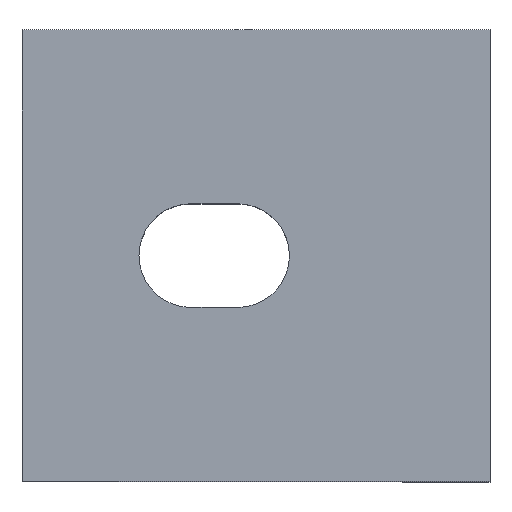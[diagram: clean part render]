
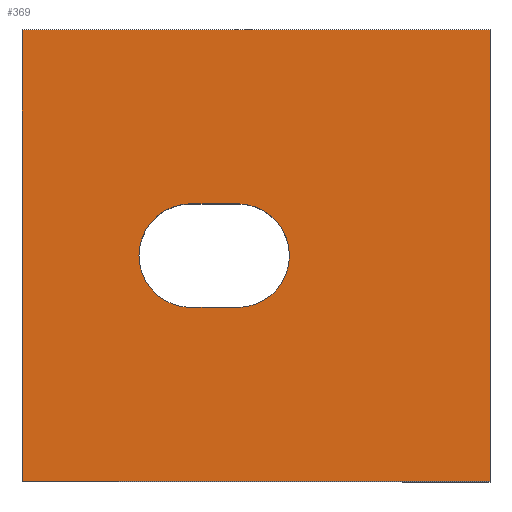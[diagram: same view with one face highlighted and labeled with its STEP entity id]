
A CAD part, top view. The second image highlights one B-rep face of the part: STEP entity #369.
In plain terms, the highlighted planar face has unit normal (0, 0, 1).
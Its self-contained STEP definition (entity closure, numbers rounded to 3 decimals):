
#9=DIRECTION('',(1.,0.,0.));
#10=VECTOR('',#9,28.);
#11=CARTESIAN_POINT('',(-28.,-13.5,0.));
#12=LINE('',#11,#10);
#45=DIRECTION('',(0.,1.,0.));
#46=VECTOR('',#45,27.);
#47=CARTESIAN_POINT('',(0.,-13.5,0.));
#48=LINE('',#47,#46);
#67=DIRECTION('',(0.,1.,0.));
#68=VECTOR('',#67,27.);
#69=CARTESIAN_POINT('',(-28.,-13.5,0.));
#70=LINE('',#69,#68);
#71=CARTESIAN_POINT('',(-15.1,0.,0.));
#72=DIRECTION('',(0.,0.,1.));
#73=DIRECTION('',(0.,-1.,0.));
#74=AXIS2_PLACEMENT_3D('',#71,#72,#73);
#76=DIRECTION('',(-1.,0.,0.));
#77=VECTOR('',#76,2.8);
#78=CARTESIAN_POINT('',(-15.1,3.1,0.));
#79=LINE('',#78,#77);
#80=CARTESIAN_POINT('',(-17.9,0.,0.));
#81=DIRECTION('',(0.,0.,1.));
#82=DIRECTION('',(0.,1.,0.));
#83=AXIS2_PLACEMENT_3D('',#80,#81,#82);
#85=DIRECTION('',(1.,0.,0.));
#86=VECTOR('',#85,2.8);
#87=CARTESIAN_POINT('',(-17.9,-3.1,0.));
#88=LINE('',#87,#86);
#105=DIRECTION('',(1.,0.,0.));
#106=VECTOR('',#105,28.);
#107=CARTESIAN_POINT('',(-28.,13.5,0.));
#108=LINE('',#107,#106);
#201=CARTESIAN_POINT('',(0.,-13.5,0.));
#203=VERTEX_POINT('',#201);
#205=CARTESIAN_POINT('',(-28.,-13.5,0.));
#206=VERTEX_POINT('',#205);
#207=CARTESIAN_POINT('',(0.,13.5,0.));
#209=VERTEX_POINT('',#207);
#211=CARTESIAN_POINT('',(-28.,13.5,0.));
#212=VERTEX_POINT('',#211);
#249=CARTESIAN_POINT('',(-15.1,-3.1,0.));
#250=CARTESIAN_POINT('',(-15.1,3.1,0.));
#251=VERTEX_POINT('',#249);
#252=VERTEX_POINT('',#250);
#253=CARTESIAN_POINT('',(-17.9,3.1,0.));
#254=VERTEX_POINT('',#253);
#255=CARTESIAN_POINT('',(-17.9,-3.1,0.));
#256=VERTEX_POINT('',#255);
#346=CARTESIAN_POINT('',(-28.,-13.5,0.));
#347=DIRECTION('',(0.,0.,1.));
#348=DIRECTION('',(1.,0.,0.));
#349=AXIS2_PLACEMENT_3D('',#346,#347,#348);
#350=PLANE('',#349);
#351=ORIENTED_EDGE('',*,*,#274,.F.);
#353=ORIENTED_EDGE('',*,*,#352,.T.);
#355=ORIENTED_EDGE('',*,*,#354,.T.);
#356=ORIENTED_EDGE('',*,*,#328,.F.);
#357=EDGE_LOOP('',(#351,#353,#355,#356));
#358=FACE_OUTER_BOUND('',#357,.F.);
#360=ORIENTED_EDGE('',*,*,#359,.T.);
#362=ORIENTED_EDGE('',*,*,#361,.T.);
#364=ORIENTED_EDGE('',*,*,#363,.T.);
#366=ORIENTED_EDGE('',*,*,#365,.T.);
#367=EDGE_LOOP('',(#360,#362,#364,#366));
#368=FACE_BOUND('',#367,.F.);
#369=ADVANCED_FACE('',(#358,#368),#350,.T.);
#75=CIRCLE('',#74,3.1);
#84=CIRCLE('',#83,3.1);
#274=EDGE_CURVE('',#206,#203,#12,.T.);
#328=EDGE_CURVE('',#203,#209,#48,.T.);
#352=EDGE_CURVE('',#206,#212,#70,.T.);
#354=EDGE_CURVE('',#212,#209,#108,.T.);
#359=EDGE_CURVE('',#251,#252,#75,.T.);
#361=EDGE_CURVE('',#252,#254,#79,.T.);
#363=EDGE_CURVE('',#254,#256,#84,.T.);
#365=EDGE_CURVE('',#256,#251,#88,.T.);
